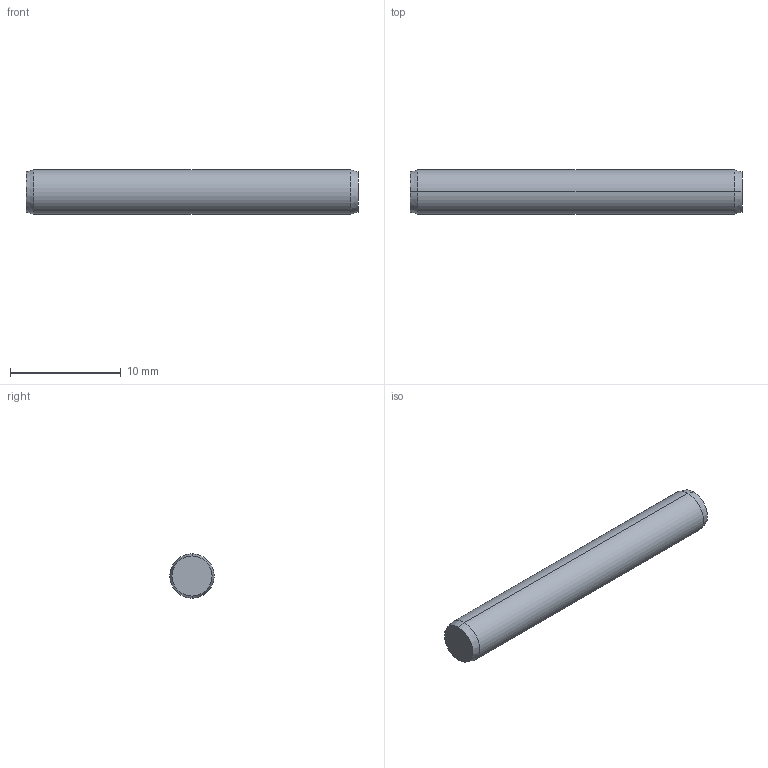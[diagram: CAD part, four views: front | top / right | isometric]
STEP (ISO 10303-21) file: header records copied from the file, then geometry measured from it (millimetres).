
FILE_DESCRIPTION (( 'STEP AP203' ), '1' );
FILE_NAME ('P1206.040-030.step', '2017-06-14T08:11:27', ( 'User' ), ( '' ), 'SwSTEP 2.0', 'SolidWorks 2009', '' );
FILE_SCHEMA (( 'CONFIG_CONTROL_DESIGN' ));
Length unit declared in the file: millimetre
Products named in the file (1): P1206.040-030
Bounding box: 30 x 4 x 4 mm (x, y, z)
Volume: 375.4 mm3; surface area: 397.4 mm2
Topology: 1 solids, 1 shells, 8 faces, 14 edges, 8 vertices
Faces by surface type: cone 4, cylinder 2, plane 2
Entity records: 271 total; most frequent: DIRECTION 40, CARTESIAN_POINT 31, ORIENTED_EDGE 28, AXIS2_PLACEMENT_3D 17, EDGE_CURVE 14, PERSON_AND_ORGANIZATION 8, FACE_OUTER_BOUND 8, CIRCLE 8
